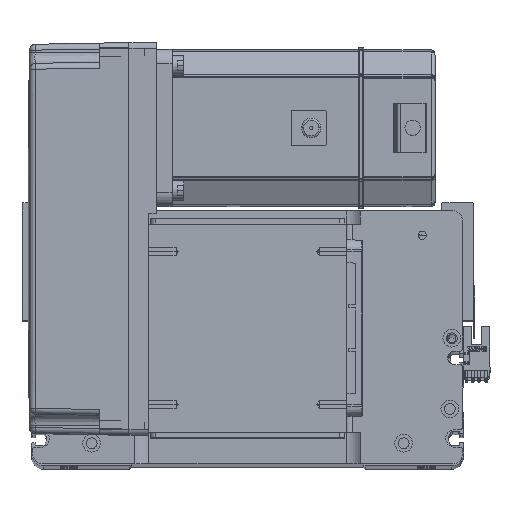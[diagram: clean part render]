
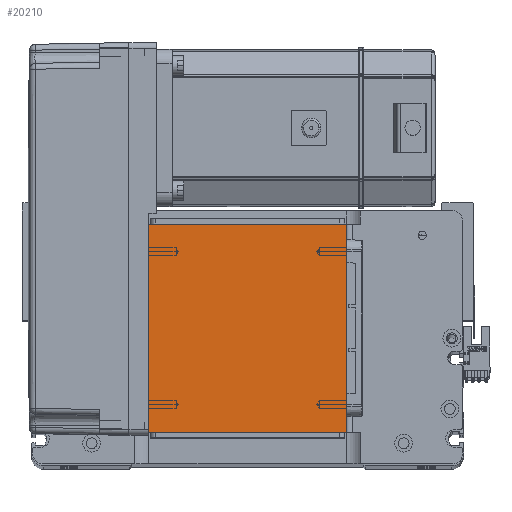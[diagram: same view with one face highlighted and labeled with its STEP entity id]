
A CAD part, top view. The second image highlights one B-rep face of the part: STEP entity #20210.
In plain terms, the highlighted planar face has unit normal (0, 0, 1).
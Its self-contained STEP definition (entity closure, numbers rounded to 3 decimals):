
#1195 = CARTESIAN_POINT ( 'NONE',  ( -50.5, 122., 115. ) ) ;
#1935 = VERTEX_POINT ( 'NONE', #1195 ) ;
#3206 = DIRECTION ( 'NONE',  ( 0., 1., 0. ) ) ;
#4466 = CARTESIAN_POINT ( 'NONE',  ( -50.5, 122., 115. ) ) ;
#5534 = CARTESIAN_POINT ( 'NONE',  ( 0., 0., 115. ) ) ;
#5657 = CARTESIAN_POINT ( 'NONE',  ( -50.5, 122., 115. ) ) ;
#6063 = DIRECTION ( 'NONE',  ( 1., 0., 0. ) ) ;
#7475 = ORIENTED_EDGE ( 'NONE', *, *, #47395, .T. ) ;
#7912 = CARTESIAN_POINT ( 'NONE',  ( 50.5, 16., 115. ) ) ;
#9965 = DIRECTION ( 'NONE',  ( 0., 0., 1. ) ) ;
#11041 = VECTOR ( 'NONE', #29226, 1000. ) ;
#13251 = EDGE_CURVE ( 'NONE', #1935, #49435, #27849, .T. ) ;
#14756 = ORIENTED_EDGE ( 'NONE', *, *, #13251, .T. ) ;
#15160 = VECTOR ( 'NONE', #6063, 1000. ) ;
#18976 = LINE ( 'NONE', #34039, #15160 ) ;
#19394 = VECTOR ( 'NONE', #3206, 1000. ) ;
#19814 = LINE ( 'NONE', #4466, #11041 ) ;
#20210 = ADVANCED_FACE ( 'NONE', ( #47647 ), #29778, .T. ) ;
#22068 = DIRECTION ( 'NONE',  ( 0., -1., 0. ) ) ;
#23290 = ORIENTED_EDGE ( 'NONE', *, *, #27763, .T. ) ;
#27763 = EDGE_CURVE ( 'NONE', #49435, #32319, #18976, .T. ) ;
#27849 = LINE ( 'NONE', #5657, #36073 ) ;
#29226 = DIRECTION ( 'NONE',  ( -1., 0., 0. ) ) ;
#29778 = PLANE ( 'NONE',  #39136 ) ;
#30040 = LINE ( 'NONE', #47868, #19394 ) ;
#32319 = VERTEX_POINT ( 'NONE', #7912 ) ;
#33296 = ORIENTED_EDGE ( 'NONE', *, *, #41398, .T. ) ;
#34039 = CARTESIAN_POINT ( 'NONE',  ( -50.5, 16., 115. ) ) ;
#34548 = VERTEX_POINT ( 'NONE', #36722 ) ;
#36073 = VECTOR ( 'NONE', #22068, 1000. ) ;
#36722 = CARTESIAN_POINT ( 'NONE',  ( 50.5, 122., 115. ) ) ;
#38088 = DIRECTION ( 'NONE',  ( 1., 0., 0. ) ) ;
#38499 = CARTESIAN_POINT ( 'NONE',  ( -50.5, 16., 115. ) ) ;
#39136 = AXIS2_PLACEMENT_3D ( 'NONE', #5534, #9965, #38088 ) ;
#41398 = EDGE_CURVE ( 'NONE', #32319, #34548, #30040, .T. ) ;
#47395 = EDGE_CURVE ( 'NONE', #34548, #1935, #19814, .T. ) ;
#47647 = FACE_OUTER_BOUND ( 'NONE', #49168, .T. ) ;
#47868 = CARTESIAN_POINT ( 'NONE',  ( 50.5, 122., 115. ) ) ;
#49168 = EDGE_LOOP ( 'NONE', ( #14756, #23290, #33296, #7475 ) ) ;
#49435 = VERTEX_POINT ( 'NONE', #38499 ) ;
